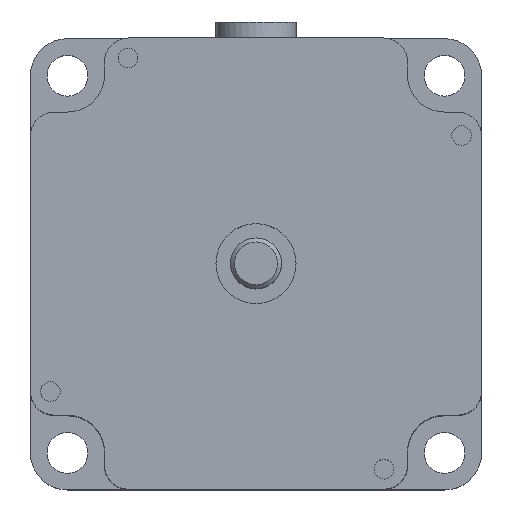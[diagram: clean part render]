
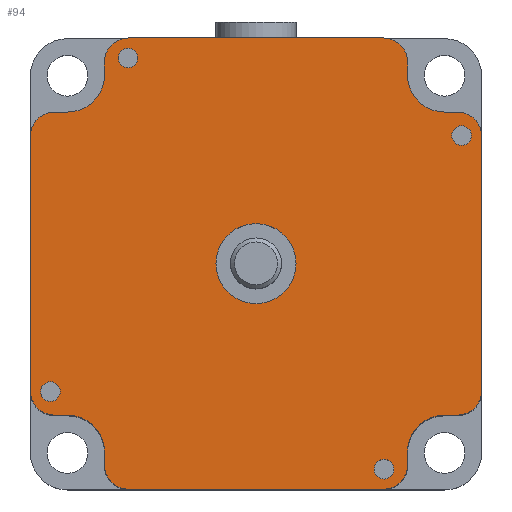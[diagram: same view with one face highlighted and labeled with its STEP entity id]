
A CAD part, top view. The second image highlights one B-rep face of the part: STEP entity #94.
In plain terms, the highlighted planar face has unit normal (0, 0, 1).
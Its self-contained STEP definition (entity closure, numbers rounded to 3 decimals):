
#94=ADVANCED_FACE('',(#5996,#5998,#6000,#6002,#6004,#6006),#6008,.T.);
#5996=FACE_BOUND('',#5997,.T.);
#5997=EDGE_LOOP('',(#10631,#10632,#10633,#10634,#10635,#10636,#10637,#10638,#10639,
#10640,#10641,#10642,#10643,#10644,#10645,#10646,#10647,#10648,#10649,#10650,#10651,
#10652,#10653,#10654));
#5998=FACE_BOUND('',#5999,.T.);
#5999=EDGE_LOOP('',(#10655));
#6000=FACE_BOUND('',#6001,.T.);
#6001=EDGE_LOOP('',(#10656));
#6002=FACE_BOUND('',#6003,.T.);
#6003=EDGE_LOOP('',(#10657));
#6004=FACE_BOUND('',#6005,.T.);
#6005=EDGE_LOOP('',(#10658));
#6006=FACE_BOUND('',#6007,.T.);
#6007=EDGE_LOOP('',(#10659));
#6008=PLANE('',#6009);
#6009=AXIS2_PLACEMENT_3D('',#6010,#6011,#6012);
#6010=CARTESIAN_POINT('',(0.,0.,56.));
#6011=DIRECTION('',(0.,0.,1.));
#6012=DIRECTION('',(1.,0.,0.));
#10631=ORIENTED_EDGE('',*,*,#14506,.F.);
#10632=ORIENTED_EDGE('',*,*,#14507,.T.);
#10633=ORIENTED_EDGE('',*,*,#14508,.F.);
#10634=ORIENTED_EDGE('',*,*,#14509,.T.);
#10635=ORIENTED_EDGE('',*,*,#14510,.T.);
#10636=ORIENTED_EDGE('',*,*,#14511,.T.);
#10637=ORIENTED_EDGE('',*,*,#14512,.F.);
#10638=ORIENTED_EDGE('',*,*,#14513,.T.);
#10639=ORIENTED_EDGE('',*,*,#14514,.F.);
#10640=ORIENTED_EDGE('',*,*,#14515,.T.);
#10641=ORIENTED_EDGE('',*,*,#14516,.T.);
#10642=ORIENTED_EDGE('',*,*,#14517,.T.);
#10643=ORIENTED_EDGE('',*,*,#14518,.F.);
#10644=ORIENTED_EDGE('',*,*,#14519,.T.);
#10645=ORIENTED_EDGE('',*,*,#14520,.F.);
#10646=ORIENTED_EDGE('',*,*,#14521,.T.);
#10647=ORIENTED_EDGE('',*,*,#14522,.T.);
#10648=ORIENTED_EDGE('',*,*,#14523,.T.);
#10649=ORIENTED_EDGE('',*,*,#14524,.F.);
#10650=ORIENTED_EDGE('',*,*,#14525,.T.);
#10651=ORIENTED_EDGE('',*,*,#14526,.F.);
#10652=ORIENTED_EDGE('',*,*,#14527,.T.);
#10653=ORIENTED_EDGE('',*,*,#14528,.T.);
#10654=ORIENTED_EDGE('',*,*,#14529,.T.);
#10655=ORIENTED_EDGE('',*,*,#14530,.T.);
#10656=ORIENTED_EDGE('',*,*,#14531,.T.);
#10657=ORIENTED_EDGE('',*,*,#14532,.T.);
#10658=ORIENTED_EDGE('',*,*,#14504,.T.);
#10659=ORIENTED_EDGE('',*,*,#14533,.T.);
#14504=EDGE_CURVE('',#16305,#16305,#16306,.F.);
#14506=EDGE_CURVE('',#16309,#16310,#16311,.T.);
#14507=EDGE_CURVE('',#16309,#16312,#16313,.T.);
#14508=EDGE_CURVE('',#16314,#16312,#16315,.T.);
#14509=EDGE_CURVE('',#16314,#16316,#16317,.F.);
#14510=EDGE_CURVE('',#16316,#16318,#16319,.F.);
#14511=EDGE_CURVE('',#16318,#16320,#16321,.F.);
#14512=EDGE_CURVE('',#16322,#16320,#16323,.T.);
#14513=EDGE_CURVE('',#16322,#16324,#16325,.T.);
#14514=EDGE_CURVE('',#16326,#16324,#16327,.T.);
#14515=EDGE_CURVE('',#16326,#16328,#16329,.F.);
#14516=EDGE_CURVE('',#16328,#16330,#16331,.F.);
#14517=EDGE_CURVE('',#16330,#16332,#16333,.F.);
#14518=EDGE_CURVE('',#16334,#16332,#16335,.T.);
#14519=EDGE_CURVE('',#16334,#16336,#16337,.T.);
#14520=EDGE_CURVE('',#16338,#16336,#16339,.T.);
#14521=EDGE_CURVE('',#16338,#16340,#16341,.F.);
#14522=EDGE_CURVE('',#16340,#16342,#16343,.F.);
#14523=EDGE_CURVE('',#16342,#16344,#16345,.F.);
#14524=EDGE_CURVE('',#16346,#16344,#16347,.T.);
#14525=EDGE_CURVE('',#16346,#16348,#16349,.T.);
#14526=EDGE_CURVE('',#16350,#16348,#16351,.T.);
#14527=EDGE_CURVE('',#16350,#16352,#16353,.F.);
#14528=EDGE_CURVE('',#16352,#16354,#16355,.F.);
#14529=EDGE_CURVE('',#16354,#16310,#16356,.F.);
#14530=EDGE_CURVE('',#16357,#16357,#16358,.F.);
#14531=EDGE_CURVE('',#16359,#16359,#16360,.F.);
#14532=EDGE_CURVE('',#16361,#16361,#16362,.F.);
#14533=EDGE_CURVE('',#16363,#16363,#16364,.F.);
#16305=VERTEX_POINT('',#19320);
#16306=CIRCLE('',#19321,5.);
#16309=VERTEX_POINT('',#19330);
#16310=VERTEX_POINT('',#19331);
#16311=CIRCLE('',#19332,3.);
#16312=VERTEX_POINT('',#19336);
#16313=LINE('',#19337,#19338);
#16314=VERTEX_POINT('',#19340);
#16315=CIRCLE('',#19341,3.);
#16316=VERTEX_POINT('',#19345);
#16317=LINE('',#19346,#19347);
#16318=VERTEX_POINT('',#19349);
#16319=CIRCLE('',#19350,4.63);
#16320=VERTEX_POINT('',#19354);
#16321=LINE('',#19355,#19356);
#16322=VERTEX_POINT('',#19358);
#16323=CIRCLE('',#19359,3.);
#16324=VERTEX_POINT('',#19363);
#16325=LINE('',#19364,#19365);
#16326=VERTEX_POINT('',#19367);
#16327=CIRCLE('',#19368,3.);
#16328=VERTEX_POINT('',#19372);
#16329=LINE('',#19373,#19374);
#16330=VERTEX_POINT('',#19376);
#16331=CIRCLE('',#19377,4.63);
#16332=VERTEX_POINT('',#19381);
#16333=LINE('',#19382,#19383);
#16334=VERTEX_POINT('',#19385);
#16335=CIRCLE('',#19386,3.);
#16336=VERTEX_POINT('',#19390);
#16337=LINE('',#19391,#19392);
#16338=VERTEX_POINT('',#19394);
#16339=CIRCLE('',#19395,3.);
#16340=VERTEX_POINT('',#19399);
#16341=LINE('',#19400,#19401);
#16342=VERTEX_POINT('',#19403);
#16343=CIRCLE('',#19404,4.63);
#16344=VERTEX_POINT('',#19408);
#16345=LINE('',#19409,#19410);
#16346=VERTEX_POINT('',#19412);
#16347=CIRCLE('',#19413,3.);
#16348=VERTEX_POINT('',#19417);
#16349=LINE('',#19418,#19419);
#16350=VERTEX_POINT('',#19421);
#16351=CIRCLE('',#19422,3.);
#16352=VERTEX_POINT('',#19426);
#16353=LINE('',#19427,#19428);
#16354=VERTEX_POINT('',#19430);
#16355=CIRCLE('',#19431,4.63);
#16356=LINE('',#19435,#19436);
#16357=VERTEX_POINT('',#19438);
#16358=CIRCLE('',#19439,1.229);
#16359=VERTEX_POINT('',#19443);
#16360=CIRCLE('',#19444,1.229);
#16361=VERTEX_POINT('',#19448);
#16362=CIRCLE('',#19449,1.229);
#16363=VERTEX_POINT('',#19453);
#16364=CIRCLE('',#19454,1.229);
#19320=CARTESIAN_POINT('',(5.,0.,56.));
#19321=AXIS2_PLACEMENT_3D('',#19322,#19323,#19324);
#19322=CARTESIAN_POINT('',(0.,0.,56.));
#19323=DIRECTION('',(0.,0.,1.));
#19324=DIRECTION('',(1.,0.,0.));
#19330=CARTESIAN_POINT('',(28.2,-15.94,56.));
#19331=CARTESIAN_POINT('',(25.2,-18.94,56.));
#19332=AXIS2_PLACEMENT_3D('',#19333,#19334,#19335);
#19333=CARTESIAN_POINT('',(25.2,-15.94,56.));
#19334=DIRECTION('',(0.,0.,-1.));
#19335=DIRECTION('',(1.,0.,0.));
#19336=CARTESIAN_POINT('',(28.2,15.94,56.));
#19337=CARTESIAN_POINT('',(28.2,-15.94,56.));
#19338=VECTOR('',#19339,1.);
#19339=DIRECTION('',(0.,1.,0.));
#19340=CARTESIAN_POINT('',(25.2,18.94,56.));
#19341=AXIS2_PLACEMENT_3D('',#19342,#19343,#19344);
#19342=CARTESIAN_POINT('',(25.2,15.94,56.));
#19343=DIRECTION('',(0.,0.,-1.));
#19344=DIRECTION('',(0.,1.,0.));
#19345=CARTESIAN_POINT('',(23.57,18.94,56.));
#19346=CARTESIAN_POINT('',(23.57,18.94,56.));
#19347=VECTOR('',#19348,1.);
#19348=DIRECTION('',(1.,0.,0.));
#19349=CARTESIAN_POINT('',(18.94,23.57,56.));
#19350=AXIS2_PLACEMENT_3D('',#19351,#19352,#19353);
#19351=CARTESIAN_POINT('',(23.57,23.57,56.));
#19352=DIRECTION('',(0.,0.,1.));
#19353=DIRECTION('',(-1.,0.,0.));
#19354=CARTESIAN_POINT('',(18.94,25.2,56.));
#19355=CARTESIAN_POINT('',(18.94,25.2,56.));
#19356=VECTOR('',#19357,1.);
#19357=DIRECTION('',(0.,-1.,0.));
#19358=CARTESIAN_POINT('',(15.94,28.2,56.));
#19359=AXIS2_PLACEMENT_3D('',#19360,#19361,#19362);
#19360=CARTESIAN_POINT('',(15.94,25.2,56.));
#19361=DIRECTION('',(0.,0.,-1.));
#19362=DIRECTION('',(0.,1.,0.));
#19363=CARTESIAN_POINT('',(-15.94,28.2,56.));
#19364=CARTESIAN_POINT('',(15.94,28.2,56.));
#19365=VECTOR('',#19366,1.);
#19366=DIRECTION('',(-1.,0.,0.));
#19367=CARTESIAN_POINT('',(-18.94,25.2,56.));
#19368=AXIS2_PLACEMENT_3D('',#19369,#19370,#19371);
#19369=CARTESIAN_POINT('',(-15.94,25.2,56.));
#19370=DIRECTION('',(0.,0.,-1.));
#19371=DIRECTION('',(-1.,0.,0.));
#19372=CARTESIAN_POINT('',(-18.94,23.57,56.));
#19373=CARTESIAN_POINT('',(-18.94,23.57,56.));
#19374=VECTOR('',#19375,1.);
#19375=DIRECTION('',(0.,1.,0.));
#19376=CARTESIAN_POINT('',(-23.57,18.94,56.));
#19377=AXIS2_PLACEMENT_3D('',#19378,#19379,#19380);
#19378=CARTESIAN_POINT('',(-23.57,23.57,56.));
#19379=DIRECTION('',(-0.,0.,1.));
#19380=DIRECTION('',(0.,-1.,0.));
#19381=CARTESIAN_POINT('',(-25.2,18.94,56.));
#19382=CARTESIAN_POINT('',(-25.2,18.94,56.));
#19383=VECTOR('',#19384,1.);
#19384=DIRECTION('',(1.,0.,0.));
#19385=CARTESIAN_POINT('',(-28.2,15.94,56.));
#19386=AXIS2_PLACEMENT_3D('',#19387,#19388,#19389);
#19387=CARTESIAN_POINT('',(-25.2,15.94,56.));
#19388=DIRECTION('',(0.,0.,-1.));
#19389=DIRECTION('',(-1.,0.,0.));
#19390=CARTESIAN_POINT('',(-28.2,-15.94,56.));
#19391=CARTESIAN_POINT('',(-28.2,15.94,56.));
#19392=VECTOR('',#19393,1.);
#19393=DIRECTION('',(0.,-1.,0.));
#19394=CARTESIAN_POINT('',(-25.2,-18.94,56.));
#19395=AXIS2_PLACEMENT_3D('',#19396,#19397,#19398);
#19396=CARTESIAN_POINT('',(-25.2,-15.94,56.));
#19397=DIRECTION('',(0.,0.,-1.));
#19398=DIRECTION('',(0.,-1.,0.));
#19399=CARTESIAN_POINT('',(-23.57,-18.94,56.));
#19400=CARTESIAN_POINT('',(-23.57,-18.94,56.));
#19401=VECTOR('',#19402,1.);
#19402=DIRECTION('',(-1.,0.,0.));
#19403=CARTESIAN_POINT('',(-18.94,-23.57,56.));
#19404=AXIS2_PLACEMENT_3D('',#19405,#19406,#19407);
#19405=CARTESIAN_POINT('',(-23.57,-23.57,56.));
#19406=DIRECTION('',(0.,0.,1.));
#19407=DIRECTION('',(1.,0.,0.));
#19408=CARTESIAN_POINT('',(-18.94,-25.2,56.));
#19409=CARTESIAN_POINT('',(-18.94,-25.2,56.));
#19410=VECTOR('',#19411,1.);
#19411=DIRECTION('',(0.,1.,0.));
#19412=CARTESIAN_POINT('',(-15.94,-28.2,56.));
#19413=AXIS2_PLACEMENT_3D('',#19414,#19415,#19416);
#19414=CARTESIAN_POINT('',(-15.94,-25.2,56.));
#19415=DIRECTION('',(0.,0.,-1.));
#19416=DIRECTION('',(0.,-1.,0.));
#19417=CARTESIAN_POINT('',(15.94,-28.2,56.));
#19418=CARTESIAN_POINT('',(-15.94,-28.2,56.));
#19419=VECTOR('',#19420,1.);
#19420=DIRECTION('',(1.,0.,0.));
#19421=CARTESIAN_POINT('',(18.94,-25.2,56.));
#19422=AXIS2_PLACEMENT_3D('',#19423,#19424,#19425);
#19423=CARTESIAN_POINT('',(15.94,-25.2,56.));
#19424=DIRECTION('',(0.,0.,-1.));
#19425=DIRECTION('',(1.,0.,0.));
#19426=CARTESIAN_POINT('',(18.94,-23.57,56.));
#19427=CARTESIAN_POINT('',(18.94,-23.57,56.));
#19428=VECTOR('',#19429,1.);
#19429=DIRECTION('',(0.,-1.,0.));
#19430=CARTESIAN_POINT('',(23.57,-18.94,56.));
#19431=AXIS2_PLACEMENT_3D('',#19432,#19433,#19434);
#19432=CARTESIAN_POINT('',(23.57,-23.57,56.));
#19433=DIRECTION('',(0.,-0.,1.));
#19434=DIRECTION('',(0.,1.,0.));
#19435=CARTESIAN_POINT('',(25.2,-18.94,56.));
#19436=VECTOR('',#19437,1.);
#19437=DIRECTION('',(-1.,0.,0.));
#19438=CARTESIAN_POINT('',(-25.7,-14.771,56.));
#19439=AXIS2_PLACEMENT_3D('',#19440,#19441,#19442);
#19440=CARTESIAN_POINT('',(-25.7,-16.,56.));
#19441=DIRECTION('',(0.,0.,1.));
#19442=DIRECTION('',(0.,1.,0.));
#19443=CARTESIAN_POINT('',(14.771,-25.7,56.));
#19444=AXIS2_PLACEMENT_3D('',#19445,#19446,#19447);
#19445=CARTESIAN_POINT('',(16.,-25.7,56.));
#19446=DIRECTION('',(0.,0.,1.));
#19447=DIRECTION('',(-1.,0.,0.));
#19448=CARTESIAN_POINT('',(25.7,14.771,56.));
#19449=AXIS2_PLACEMENT_3D('',#19450,#19451,#19452);
#19450=CARTESIAN_POINT('',(25.7,16.,56.));
#19451=DIRECTION('',(0.,0.,1.));
#19452=DIRECTION('',(0.,-1.,-0.));
#19453=CARTESIAN_POINT('',(-14.771,25.7,56.));
#19454=AXIS2_PLACEMENT_3D('',#19455,#19456,#19457);
#19455=CARTESIAN_POINT('',(-16.,25.7,56.));
#19456=DIRECTION('',(0.,0.,1.));
#19457=DIRECTION('',(1.,0.,0.));
